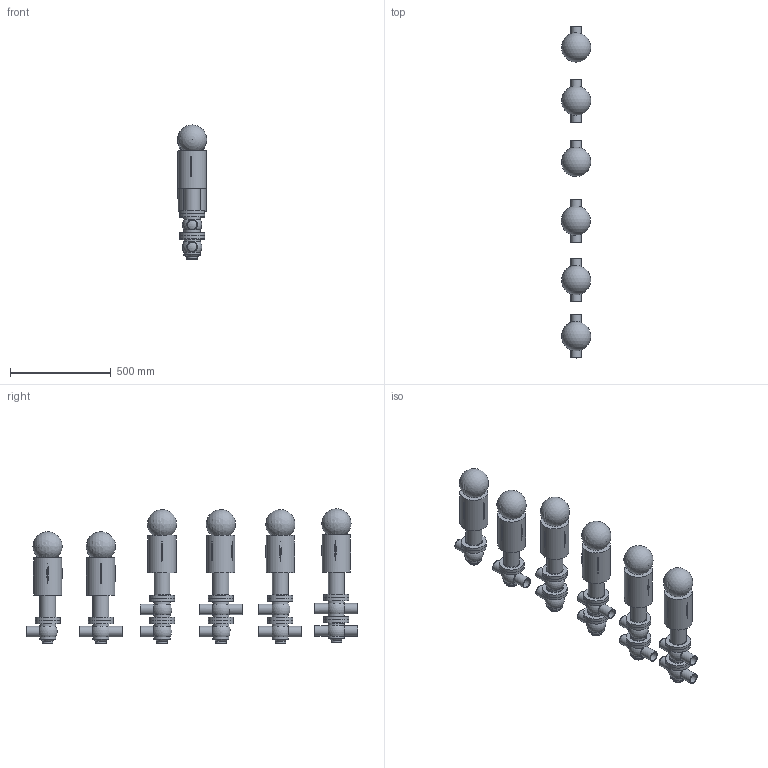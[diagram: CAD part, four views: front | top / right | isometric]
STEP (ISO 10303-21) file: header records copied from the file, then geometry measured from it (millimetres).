
FILE_DESCRIPTION(/* description */ (''),/* implementation_level */ '2;1');
FILE_NAME(/* name */ 'C:\Users\marz-m\Desktop\PDF\BBZQ 3D STEP\BBZQ-DN508-CIL.134.stp',/* time_stamp */ '2018-04-13T14:54:03+02:00',/* author */ ('marz-m'),/* organization */ (''),/* preprocessor_version */ 'ST-DEVELOPER v17',/* originating_system */ 'Autodesk Inventor 2018',/* authorisation */ '');
FILE_SCHEMA (('AUTOMOTIVE_DESIGN { 1 0 10303 214 3 1 1 }'));
Length unit declared in the file: millimetre
Products named in the file (8): BBZQ-DN508-CIL.134; COR-INF-L-BBZQ-DN052X3-SALD; COR-INF-T-BBZQ-DN052X3-SALD; assemblaggio dn50 per cil 108-156; CIL134; SAGOMA-GIOTTO-; CORPO-SUP-INF-BBZQ-L-DN52X3-SALD; CORPO-SUP-INF-BBZQ-T-DN52X3-SALD
Assembly tree (28 placements, depth 2):
  BBZQ-DN508-CIL.134
    COR-INF-L-BBZQ-DN052X3-SALD  x3
    COR-INF-T-BBZQ-DN052X3-SALD  x3
    assemblaggio dn50 per cil 108-156  x6
    CIL134  x6
    SAGOMA-GIOTTO-  x6
    CORPO-SUP-INF-BBZQ-L-DN52X3-SALD  x2
    CORPO-SUP-INF-BBZQ-T-DN52X3-SALD  x2
Bounding box: 145.8 x 1644.54 x 664.82 mm (x, y, z)
Volume: 38520452.2 mm3; surface area: 2360843.7 mm2
Topology: 28 solids, 28 shells, 422 faces, 1046 edges, 736 vertices
Faces by surface type: plane 157, cylinder 106, torus 74, cone 54, sphere 31
Full cylindrical faces by diameter (mm): 20 x12, 46 x21, 52 x21, 79 x6, 80 x20, 124 x20, 139 x6
Entity records: 4341 total; most frequent: CARTESIAN_POINT 1150, DIRECTION 693, ORIENTED_EDGE 534, AXIS2_PLACEMENT_3D 327, EDGE_CURVE 267, VERTEX_POINT 192, CIRCLE 168, EDGE_LOOP 145
